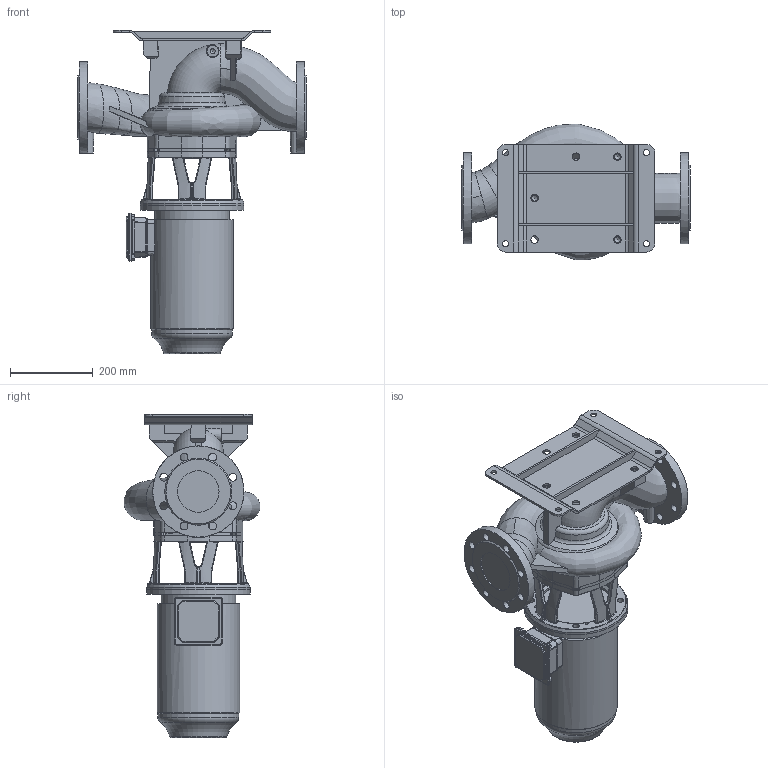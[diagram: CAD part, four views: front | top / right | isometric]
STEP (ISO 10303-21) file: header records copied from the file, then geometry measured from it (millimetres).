
FILE_DESCRIPTION (( 'STEP AP203' ), '1' );
FILE_NAME ('KI100-180_4_3kW.STEP', '2024-07-29T05:34:59', ( '' ), ( '' ), 'SwSTEP 2.0', 'SolidWorks 2023', '' );
FILE_SCHEMA (( 'CONFIG_CONTROL_DESIGN' ));
Length unit declared in the file: millimetre
Products named in the file (11): 230488; 230181; 220495; 230180; 230489; 230179; 220508; KI100-180_4_3kW; 220511; HMA4_100L_2-4_B5_solid; 220494
Assembly tree (11 placements, depth 3):
  KI100-180_4_3kW
    220511
      220508
    230489
      230488
    220495
      220494
    230181
      230179
      230180  x2
    HMA4_100L_2-4_B5_solid
Bounding box: 550 x 327.99 x 779.45 mm (x, y, z)
Volume: 28037131.5 mm3; surface area: 1502942.8 mm2
Topology: 7 solids, 7 shells, 1011 faces, 2671 edges, 1630 vertices
Faces by surface type: cylinder 328, plane 305, bspline 204, torus 94, cone 66, sphere 14
Full cylindrical faces by diameter (mm): 5 x4, 6 x3, 6.8 x4, 7 x8, 10.2 x4, 11.8 x4, 14 x7, 14.5 x8, 15 x4, 18 x5, 19 x16, 100 x2, 150 x1, 180 x2, 189 x1, 194 x1, 195 x1, 199 x1, 220 x2, 250 x2
Entity records: 75251 total; most frequent: CARTESIAN_POINT 51982, ORIENTED_EDGE 4844, DIRECTION 4223, EDGE_CURVE 2422, AXIS2_PLACEMENT_3D 1674, VERTEX_POINT 1536, EDGE_LOOP 1218, FACE_OUTER_BOUND 1088
